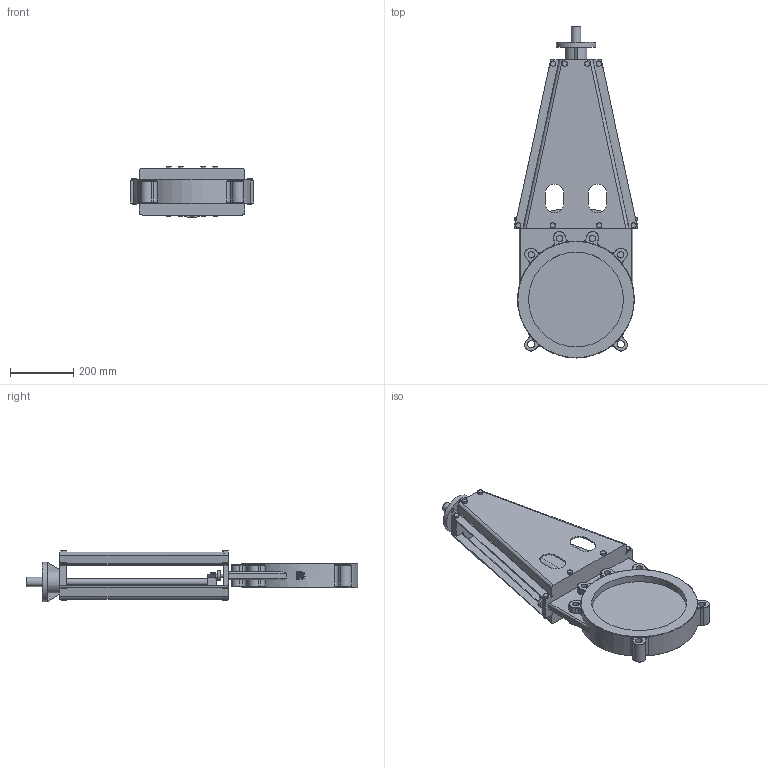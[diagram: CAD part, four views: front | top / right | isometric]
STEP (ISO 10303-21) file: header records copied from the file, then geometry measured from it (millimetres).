
FILE_DESCRIPTION(('STEP AP242'), '1');
FILE_NAME('GVKN1331E-2W-Fb-ISO Çàäâèæêà øèáåðíàÿ ñ íåâûäâèæíûì øòîêîì DN.ru Äó300 Ðó10', '2026-05-24T15:17:10', ('R2D2'), (''), 'C3D Converter', 'C3D Toolkit', '');
FILE_SCHEMA(('AP242_MANAGED_MODEL_BASED_3D_ENGINEERING_MIM_LF { 1 0 10303 442 1 1 4 }'));
Length unit declared in the file: millimetre
Products named in the file (1): GVKN1331E-2W-Fb-ISO
Bounding box: 390 x 1051 x 162.9 mm (x, y, z)
Volume: 9207688.1 mm3; surface area: 1389123.2 mm2
Topology: 2 solids, 6 shells, 973 faces, 2369 edges, 1463 vertices
Faces by surface type: plane 508, cylinder 160, extrusion 142, cone 121, torus 42
Full cylindrical faces by diameter (mm): 8 x6, 10 x7, 12 x4, 13 x10, 16 x10, 20 x9, 23 x2, 29 x1, 70 x1, 125 x1, 300 x2, 370 x1
Entity records: 51814 total; most frequent: CARTESIAN_POINT 22177, ORIENTED_EDGE 4614, DIRECTION 4070, EDGE_CURVE 2307, VERTEX_POINT 1463, AXIS2_PLACEMENT_3D 1429, VECTOR 1212, EDGE_LOOP 1142
